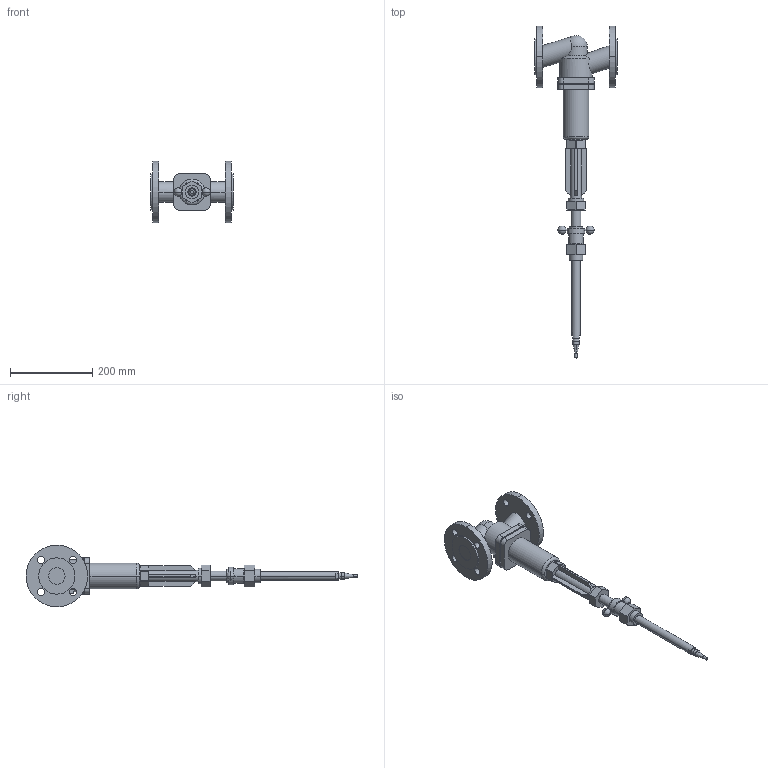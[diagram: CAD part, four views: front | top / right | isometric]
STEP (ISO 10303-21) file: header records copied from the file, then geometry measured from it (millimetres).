
FILE_DESCRIPTION(('CoCreate Modeling STEP Export'),'2;1');
FILE_NAME('c000001252.stp','2011-09-22T11:16:46',(''),(''),'CoCreate Modeling STEP processor for AP214 (Solid Model)','CoCreate Modeling 17.0 01-Apr-2010 (C) Parametric Technology GmbH','');
FILE_SCHEMA(('AUTOMOTIVE_DESIGN { 1 0 10303 214 1 1 1 1 }'));
Length unit declared in the file: millimetre
Products named in the file (1): 1
Bounding box: 200 x 807.05 x 150 mm (x, y, z)
Volume: 2096969.9 mm3; surface area: 238937.4 mm2
Topology: 1 solids, 1 shells, 204 faces, 512 edges, 327 vertices
Faces by surface type: plane 92, cylinder 90, sphere 10, cone 10, torus 2
Entity records: 9459 total; most frequent: CARTESIAN_POINT 3292, ORIENTED_EDGE 1004, DIRECTION 843, EDGE_CURVE 502, VERTEX_POINT 327, AXIS2_PLACEMENT_3D 295, VECTOR 253, LINE 253
